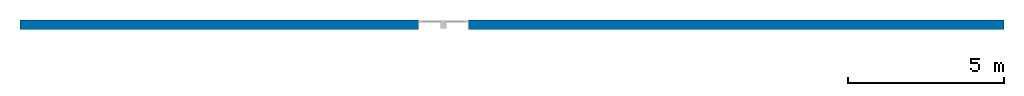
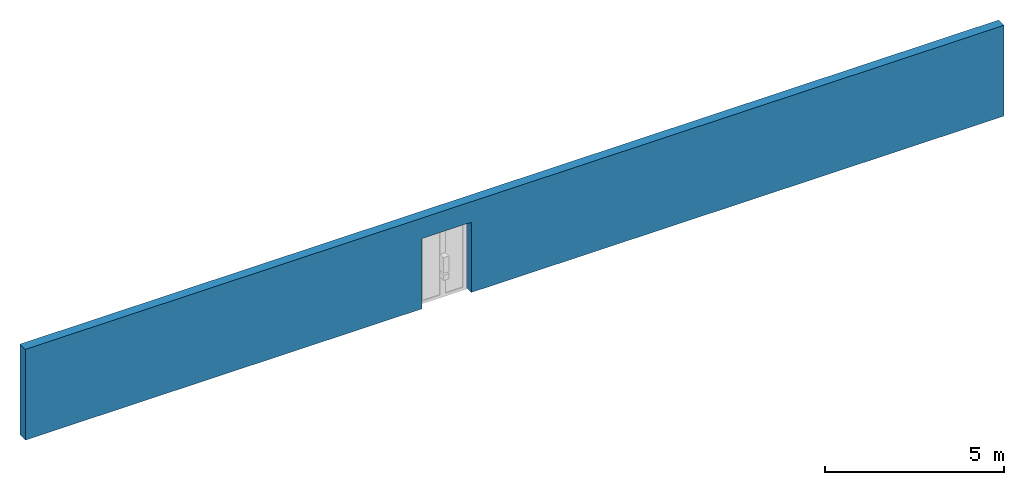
# One storey, part 1 of 2: 1 wall, 1 opening.
"""IFC2X3 building model written with IfcOpenShell, lengths in metres."""

from ifc_helpers import new_model, entity, si_unit, converted_unit, derived_unit, direction, frame, frame_2d, origin, place, context, subcontext, project, spatial, rectangle, extrude, material, layer, layer_set, layer_usage, type_object, element, save


model = new_model("IFC2X3")

# Units and contexts
model_context = context("Model", 3, precision=1e-05, world=origin(), true_north=direction((6.12303176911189e-17, 1.0)))
body_context = subcontext(model_context, "Body", "Model", "MODEL_VIEW")
ifc_project = project(units=[si_unit("LENGTHUNIT", "METRE"), si_unit("AREAUNIT", "SQUARE_METRE"), si_unit("VOLUMEUNIT", "CUBIC_METRE"), converted_unit("PLANEANGLEUNIT", "DEGREE", entity("IfcRatioMeasure", 0.0174532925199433), si_unit("PLANEANGLEUNIT", "RADIAN"), dimensions=[0, 0, 0, 0, 0, 0, 0]), si_unit("MASSUNIT", "GRAM", prefix="KILO"), derived_unit("MASSDENSITYUNIT", [(si_unit("MASSUNIT", "GRAM", prefix="KILO"), 1), (si_unit("LENGTHUNIT", "METRE"), -3)]), si_unit("TIMEUNIT", "SECOND"), si_unit("FREQUENCYUNIT", "HERTZ"), si_unit("THERMODYNAMICTEMPERATUREUNIT", "DEGREE_CELSIUS"), derived_unit("THERMALTRANSMITTANCEUNIT", [(si_unit("MASSUNIT", "GRAM", prefix="KILO"), 1), (si_unit("THERMODYNAMICTEMPERATUREUNIT", "KELVIN"), -1), (si_unit("TIMEUNIT", "SECOND"), -3)]), derived_unit("VOLUMETRICFLOWRATEUNIT", [(si_unit("LENGTHUNIT", "METRE"), 3), (si_unit("TIMEUNIT", "SECOND"), -1)]), si_unit("ELECTRICCURRENTUNIT", "AMPERE"), si_unit("ELECTRICVOLTAGEUNIT", "VOLT"), si_unit("POWERUNIT", "WATT"), si_unit("FORCEUNIT", "NEWTON", prefix="KILO"), si_unit("ILLUMINANCEUNIT", "LUX"), si_unit("LUMINOUSFLUXUNIT", "LUMEN"), si_unit("LUMINOUSINTENSITYUNIT", "CANDELA"), derived_unit("USERDEFINED", [(si_unit("MASSUNIT", "GRAM", prefix="KILO"), -1), (si_unit("LENGTHUNIT", "METRE"), -2), (si_unit("TIMEUNIT", "SECOND"), 3), (si_unit("LUMINOUSFLUXUNIT", "LUMEN"), 1)]), derived_unit("LINEARVELOCITYUNIT", [(si_unit("LENGTHUNIT", "METRE"), 1), (si_unit("TIMEUNIT", "SECOND"), -1)]), si_unit("PRESSUREUNIT", "PASCAL"), derived_unit("USERDEFINED", [(si_unit("LENGTHUNIT", "METRE"), -2), (si_unit("MASSUNIT", "GRAM", prefix="KILO"), 1), (si_unit("TIMEUNIT", "SECOND"), -2)])], contexts=[model_context])

# Site, building, storey
site_placement = place(None, origin())
site = spatial("IfcSite", under=ifc_project, at=site_placement, Name="Default", CompositionType="ELEMENT")
building_placement = place(site_placement, origin())
building = spatial("IfcBuilding", under=site, at=building_placement, CompositionType="ELEMENT")
storey_placement = place(building_placement, origin())
storey = spatial("IfcBuildingStorey", under=building, at=storey_placement, Name="0 - Piano Terra", CompositionType="ELEMENT", Elevation=0.0)

# Wall, opening
ifc_material = material(Name="Default - Muro")
ifc_layer = layer(ifc_material, 0.3)
ifc_layer_set = layer_set([ifc_layer], Name="Muro di base:Generico - 30 cm")
ifc_layer_usage = layer_usage(ifc_layer_set, "AXIS2", "NEGATIVE", 0.15)
wall_type = type_object("IfcWallType", Name="Muro di base:Generico - 30 cm", PredefinedType="STANDARD", material=ifc_layer_set)
wall_placement = place(storey_placement, frame((-16.3844734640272, -0.365587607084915, 0.0)))
wall = element("IfcWallStandardCase", 1, at=wall_placement, inside=storey, type_object=wall_type, material=ifc_layer_usage, Name="Muro di base:Generico - 30 cm", ObjectType="Muro di base:Generico - 30 cm:952", context=body_context, shape_type="SweptSolid", body=[
    extrude(rectangle(XDim=31.6, YDim=0.3, at=frame_2d((15.8, -2.77555756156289e-17), x_axis=(-1.0, 0.0))), origin(), (0.0, 0.0, 1.0), 3.1),
])
opening_placement = place(wall_placement, frame((12.8, -0.150000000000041, 0.0)))
element("IfcOpeningElement", 2, at=opening_placement, cuts=wall, Name="BIM_AluK_D77_2 ante apertura interna:BIM_AluK_D77_2 ante apertura interna:1", ObjectType="Opening", context=body_context, shape_type="SweptSolid", body=[
    extrude(rectangle(XDim=2.39999999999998, YDim=1.6, at=frame_2d((1.19999999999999, 0.799999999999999), x_axis=(1.0, 0.0))), frame((0.0, 0.0, 0.0), z_axis=(0.0, 1.0, 0.0), x_axis=(0.0, 0.0, 1.0)), (0.0, 0.0, 1.0), 0.3),
])

save(model, "model.ifc")
